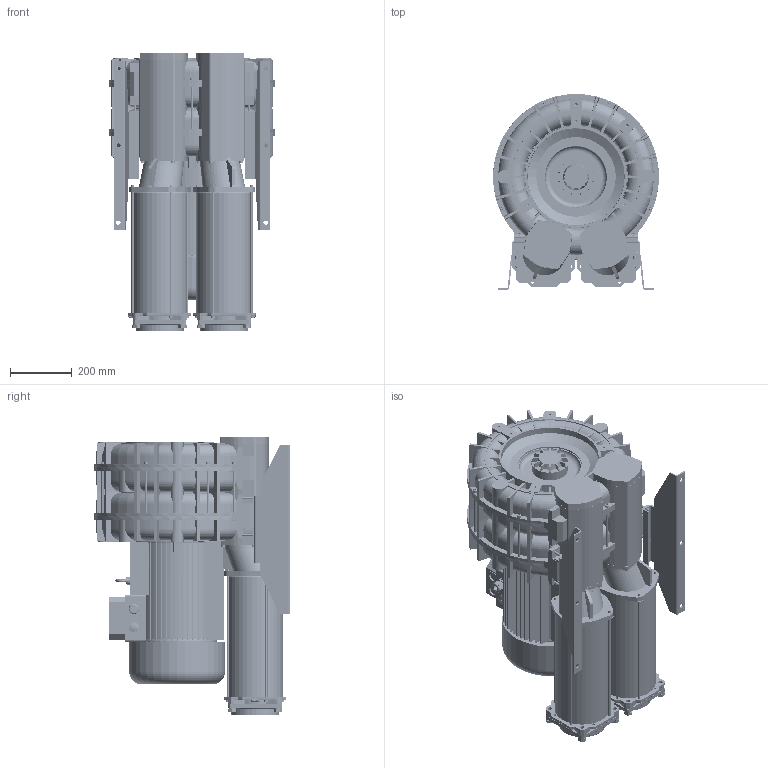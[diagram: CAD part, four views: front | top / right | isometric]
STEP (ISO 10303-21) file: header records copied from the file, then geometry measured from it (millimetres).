
FILE_DESCRIPTION (( 'STEP AP203' ), '1' );
FILE_NAME ('STP-L_e_10_TS_MOR_IE3WR_160_18.5kW-3_24-00.step', '2024-12-02T14:18:32', ( '' ), ( '' ), 'SwSTEP 2.0', 'SolidWorks 2023', '' );
FILE_SCHEMA (( 'CONFIG_CONTROL_DESIGN' ));
Length unit declared in the file: millimetre
Products named in the file (1): STP-L_e_10_TS_MOR_IE3WR_160_18.5kW-3_24-00
Bounding box: 537.57 x 633.15 x 901.5 mm (x, y, z)
Volume: 115418583.9 mm3; surface area: 6553496.3 mm2
Topology: 134 solids, 135 shells, 5348 faces, 13780 edges, 8639 vertices
Faces by surface type: plane 2238, cylinder 1297, bspline 717, cone 546, torus 509, sphere 41
Full cylindrical faces by diameter (mm): 6.8 x20, 7.5 x4, 8 x33, 8.4 x27, 8.5 x16, 8.566 x2, 8.8 x2, 9 x24, 9.728 x2, 9.98 x2, 10 x15, 11 x12, 12 x6, 12.02 x2, 13 x52, 14 x10, 16 x20, 17 x16, 18 x1, 19 x4, 24 x16, 24.4 x1, 27 x7, 28 x3, 32.5 x1, 33 x1, 50 x1, 52.098 x1, 53.098 x1, 62.5 x4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
Entity records: 196641 total; most frequent: CARTESIAN_POINT 78083, ORIENTED_EDGE 25430, DIRECTION 22847, EDGE_CURVE 12715, AXIS2_PLACEMENT_3D 8946, VERTEX_POINT 8382, EDGE_LOOP 6389, FACE_OUTER_BOUND 5792
